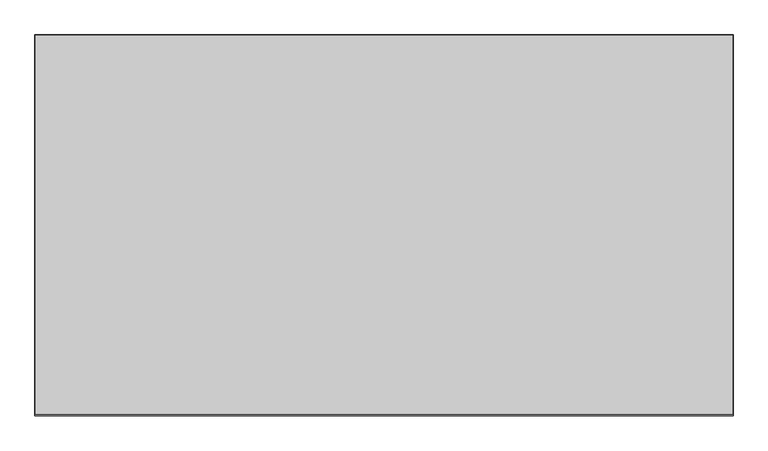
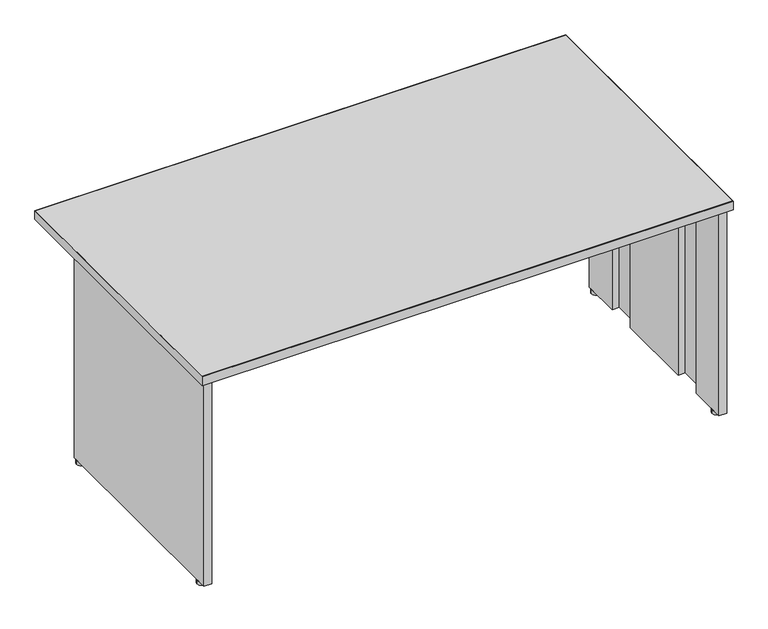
"""IFC4 building model written with IfcOpenShell, lengths in millimetres: furniture geometry, Steelcase - Kick Freestanding - Desk Shell - Partial Height Modesty Panel : 36D x 66W."""

from ifc_helpers import new_model, si_unit, point, frame, frame_2d, origin, origin_with_axes, place, context, project, spatial, polyline, circle_curve, trimmed, segment, composite_curve, outline, extrude, source, transform, mapped, element, save


def furniture_72553a9f(model_context):
    return source(origin(), model_context, "Body", "SweptSolid", [
        extrude(outline(polyline([(677.0450425, -1152.3647597), (677.0450425, -1126.9647604), (2279.0738425, -1126.9647604), (2279.0738425, -1152.3647597), (677.0450425, -1152.3647597)])), frame((0.0, 0.0, 390.144), z_axis=(0.0, 0.0, 1.0), x_axis=(1.0, 0.0, 0.0)), (0.0, 0.0, 1.0), 304.8),
        extrude(outline(composite_curve([segment(trimmed(circle_curve(frame_2d((665.1357759, -1139.3367877)), 13.97), [point((651.1657759, -1139.3367877))], [point((679.1057759, -1139.3367877))], False, "CARTESIAN"), True, "CONTINUOUS"), segment(trimmed(circle_curve(frame_2d((665.1357759, -1139.3367877)), 13.97), [point((679.1057759, -1139.3367877))], [point((651.1657759, -1139.3367877))], False, "CARTESIAN"), True, "CONTINUOUS")], self_intersect=False)), origin_with_axes(), (0.0, 0.0, 1.0), 12.446),
        extrude(outline(composite_curve([segment(trimmed(circle_curve(frame_2d((665.1357759, -1798.4441481)), 13.97), [point((651.1657759, -1798.4441481))], [point((679.1057759, -1798.4441481))], False, "CARTESIAN"), True, "CONTINUOUS"), segment(trimmed(circle_curve(frame_2d((665.1357759, -1798.4441481)), 13.97), [point((679.1057759, -1798.4441481))], [point((651.1657759, -1798.4441481))], False, "CARTESIAN"), True, "CONTINUOUS")], self_intersect=False)), origin_with_axes(), (0.0, 0.0, 1.0), 12.446),
        extrude(outline(polyline([(2279.0738425, -1248.4529604), (2279.0738425, -1125.1867604), (2303.5594421, -1125.1867604), (2303.5594421, -1833.338741), (2279.0738421, -1833.338741), (2279.0738421, -1709.0311348), (2301.5020425, -1709.0311348), (2301.5020425, -1609.3107682), (2279.0738421, -1609.3107682), (2279.0738421, -1348.1733647), (2301.5020425, -1348.1733647), (2301.5020425, -1248.4529604), (2279.0738425, -1248.4529604)])), frame((0.0, 0.0, 12.446), z_axis=(0.0, 0.0, 1.0), x_axis=(1.0, 0.0, 0.0)), (0.0, 0.0, 1.0), 682.498),
        extrude(outline(polyline([(677.0450425, -1248.4529604), (654.6168425, -1248.4529604), (654.6168425, -1348.1733647), (677.0450429, -1348.1733647), (677.0450429, -1609.3107682), (654.6168425, -1609.3107682), (654.6168425, -1709.0311348), (677.0450429, -1709.0311348), (677.0450429, -1833.338741), (652.5594429, -1833.338741), (652.5594429, -1125.1867604), (677.0450425, -1125.1867604), (677.0450425, -1248.4529604)])), frame((0.0, 0.0, 12.446), z_axis=(0.0, 0.0, 1.0), x_axis=(1.0, 0.0, 0.0)), (0.0, 0.0, 1.0), 682.498),
        extrude(outline(polyline([(2315.2688425, -932.6293604), (2315.2688425, -1843.0669215), (640.8500425, -1843.0669215), (640.8500425, -932.6293604), (2315.2688425, -932.6293604)])), frame((0.0, 0.0, 694.944), z_axis=(0.0, 0.0, 1.0), x_axis=(1.0, 0.0, 0.0)), (0.0, 0.0, 1.0), 28.956),
        extrude(outline(polyline([(2316.2594425, -931.6387604), (2316.2594425, -1846.0387604), (639.8594425, -1846.0387604), (639.8594425, -931.6387604), (2316.2594425, -931.6387604)]), holes=[polyline([(2315.2688425, -932.6293604), (640.8500425, -932.6293604), (640.8500425, -1843.0669215), (2315.2688425, -1843.0669215), (2315.2688425, -932.6293604)])]), frame((0.0, 0.0, 694.944), z_axis=(0.0, 0.0, 1.0), x_axis=(1.0, 0.0, 0.0)), (0.0, 0.0, 1.0), 28.956),
        extrude(outline(composite_curve([segment(trimmed(circle_curve(frame_2d((2290.9831091, -1798.4441481)), 13.97), [point((2277.0131091, -1798.4441481))], [point((2304.9531091, -1798.4441481))], False, "CARTESIAN"), True, "CONTINUOUS"), segment(trimmed(circle_curve(frame_2d((2290.9831091, -1798.4441481)), 13.97), [point((2304.9531091, -1798.4441481))], [point((2277.0131091, -1798.4441481))], False, "CARTESIAN"), True, "CONTINUOUS")], self_intersect=False)), origin_with_axes(), (0.0, 0.0, 1.0), 12.446),
        extrude(outline(composite_curve([segment(trimmed(circle_curve(frame_2d((2290.9831091, -1139.3367877)), 13.97), [point((2304.9531091, -1139.3367877))], [point((2277.0131091, -1139.3367877))], False, "CARTESIAN"), True, "CONTINUOUS"), segment(trimmed(circle_curve(frame_2d((2290.9831091, -1139.3367877)), 13.97), [point((2277.0131091, -1139.3367877))], [point((2304.9531091, -1139.3367877))], False, "CARTESIAN"), True, "CONTINUOUS")], self_intersect=False)), origin_with_axes(), (0.0, 0.0, 1.0), 12.446),
    ])


if __name__ == "__main__":
    model = new_model("IFC4")
    model_context = context("Model", 3, world=origin())
    ifc_project = project(units=[si_unit("LENGTHUNIT", "METRE", prefix="MILLI")], contexts=[model_context])
    site = spatial("IfcSite", under=ifc_project)
    building = spatial("IfcBuilding", under=site)
    placement = place(None, origin())
    furniture_shape = furniture_72553a9f(model_context)
    element("IfcFurniture", 1, ObjectType="Steelcase - Kick Freestanding - Desk Shell - Partial Height Modesty Panel : 36D x 66W", at=placement, inside=building, context=model_context, shape_type="MappedRepresentation", body=[
        mapped(furniture_shape, transform((0.0, 0.0, 0.0), x_axis=(1.0, 0.0, 0.0), y_axis=(0.0, 1.0, 0.0), z_axis=(0.0, 0.0, 1.0))),
    ])
    save(model, "model.ifc")
